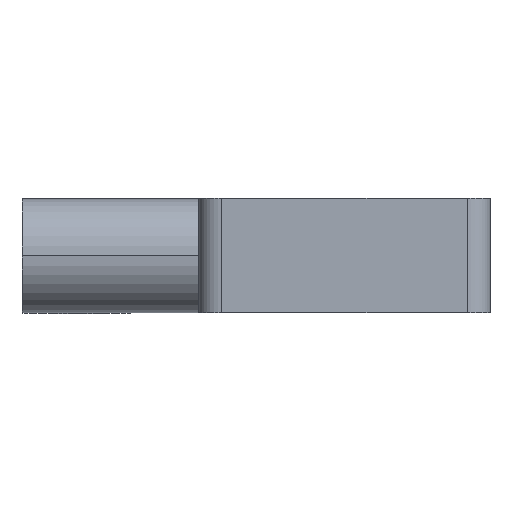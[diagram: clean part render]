
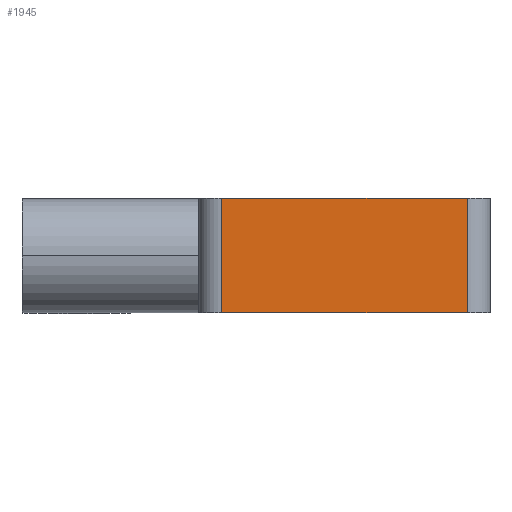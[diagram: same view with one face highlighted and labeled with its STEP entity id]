
A CAD part, top view. The second image highlights one B-rep face of the part: STEP entity #1945.
In plain terms, the highlighted planar face has unit normal (0, 0, 1).
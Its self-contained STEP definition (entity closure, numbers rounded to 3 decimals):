
#258 = CARTESIAN_POINT ( 'NONE',  ( -23.5, -5., 9. ) ) ;
#579 = LINE ( 'NONE', #2197, #2067 ) ;
#609 = DIRECTION ( 'NONE',  ( 0., -1., 0. ) ) ;
#764 = VERTEX_POINT ( 'NONE', #2878 ) ;
#895 = EDGE_CURVE ( 'NONE', #5053, #4311, #579, .T. ) ;
#954 = EDGE_CURVE ( 'NONE', #4311, #764, #4338, .T. ) ;
#993 = DIRECTION ( 'NONE',  ( 1., 0., 0. ) ) ;
#1222 = DIRECTION ( 'NONE',  ( 0., 0., 1. ) ) ;
#1248 = DIRECTION ( 'NONE',  ( 1., 0., 0. ) ) ;
#1388 = LINE ( 'NONE', #3828, #4784 ) ;
#1651 = AXIS2_PLACEMENT_3D ( 'NONE', #3172, #1222, #1248 ) ;
#1705 = EDGE_LOOP ( 'NONE', ( #2291, #3528, #2088, #2461 ) ) ;
#1873 = CARTESIAN_POINT ( 'NONE',  ( -2., 5., 9. ) ) ;
#1885 = VECTOR ( 'NONE', #4701, 1000. ) ;
#1945 = ADVANCED_FACE ( 'NONE', ( #2445 ), #4818, .T. ) ;
#2060 = LINE ( 'NONE', #5171, #4540 ) ;
#2067 = VECTOR ( 'NONE', #993, 1000. ) ;
#2088 = ORIENTED_EDGE ( 'NONE', *, *, #895, .T. ) ;
#2140 = CARTESIAN_POINT ( 'NONE',  ( -2., -5., 9. ) ) ;
#2197 = CARTESIAN_POINT ( 'NONE',  ( -25.5, -5., 9. ) ) ;
#2291 = ORIENTED_EDGE ( 'NONE', *, *, #5161, .F. ) ;
#2445 = FACE_OUTER_BOUND ( 'NONE', #1705, .T. ) ;
#2461 = ORIENTED_EDGE ( 'NONE', *, *, #954, .T. ) ;
#2878 = CARTESIAN_POINT ( 'NONE',  ( -2., 5., 9. ) ) ;
#3172 = CARTESIAN_POINT ( 'NONE',  ( -25.5, 5., 9. ) ) ;
#3468 = CARTESIAN_POINT ( 'NONE',  ( -23.5, 5., 9. ) ) ;
#3528 = ORIENTED_EDGE ( 'NONE', *, *, #3591, .T. ) ;
#3591 = EDGE_CURVE ( 'NONE', #5058, #5053, #1388, .T. ) ;
#3646 = DIRECTION ( 'NONE',  ( 1., 0., 0. ) ) ;
#3828 = CARTESIAN_POINT ( 'NONE',  ( -23.5, -5., 9. ) ) ;
#4311 = VERTEX_POINT ( 'NONE', #2140 ) ;
#4338 = LINE ( 'NONE', #1873, #1885 ) ;
#4540 = VECTOR ( 'NONE', #3646, 1000. ) ;
#4701 = DIRECTION ( 'NONE',  ( 0., 1., 0. ) ) ;
#4784 = VECTOR ( 'NONE', #609, 1000. ) ;
#4818 = PLANE ( 'NONE',  #1651 ) ;
#5053 = VERTEX_POINT ( 'NONE', #258 ) ;
#5058 = VERTEX_POINT ( 'NONE', #3468 ) ;
#5161 = EDGE_CURVE ( 'NONE', #5058, #764, #2060, .T. ) ;
#5171 = CARTESIAN_POINT ( 'NONE',  ( -25.5, 5., 9. ) ) ;
